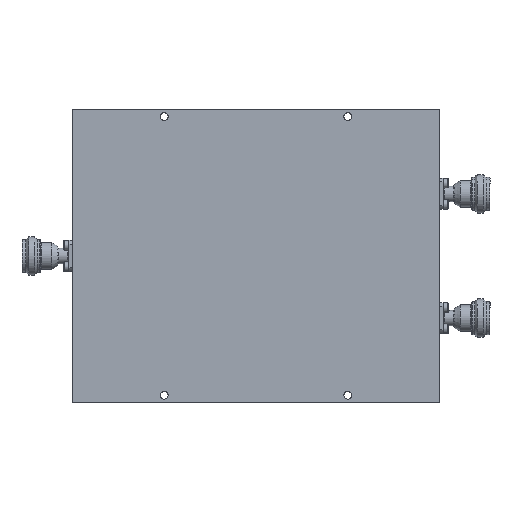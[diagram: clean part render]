
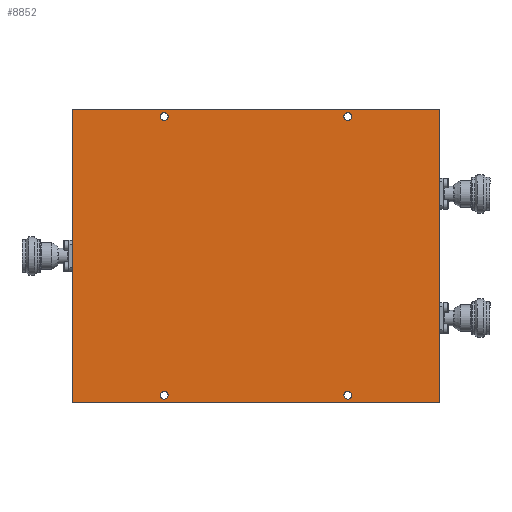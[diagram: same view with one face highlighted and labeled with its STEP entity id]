
A CAD part, top view. The second image highlights one B-rep face of the part: STEP entity #8852.
In plain terms, the highlighted planar face has unit normal (0, 0, 1).
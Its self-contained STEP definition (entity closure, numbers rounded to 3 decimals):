
#469=LINE('',#11884,#733);
#477=LINE('',#11909,#741);
#485=LINE('',#11954,#749);
#486=LINE('',#11955,#750);
#733=VECTOR('',#10080,1000.);
#741=VECTOR('',#10098,1000.);
#749=VECTOR('',#10140,1000.);
#750=VECTOR('',#10141,1000.);
#1033=ORIENTED_EDGE('',*,*,#2613,.T.);
#1034=ORIENTED_EDGE('',*,*,#2633,.T.);
#1035=ORIENTED_EDGE('',*,*,#2601,.T.);
#1036=ORIENTED_EDGE('',*,*,#2634,.T.);
#1037=ORIENTED_EDGE('',*,*,#2631,.F.);
#1038=ORIENTED_EDGE('',*,*,#2629,.F.);
#1039=ORIENTED_EDGE('',*,*,#2627,.F.);
#1040=ORIENTED_EDGE('',*,*,#2625,.F.);
#2601=EDGE_CURVE('',#3401,#3402,#469,.T.);
#2613=EDGE_CURVE('',#3413,#3414,#477,.T.);
#2625=EDGE_CURVE('',#3425,#3425,#4000,.T.);
#2627=EDGE_CURVE('',#3427,#3427,#4002,.T.);
#2629=EDGE_CURVE('',#3429,#3429,#4004,.T.);
#2631=EDGE_CURVE('',#3431,#3431,#4006,.T.);
#2633=EDGE_CURVE('',#3414,#3401,#485,.T.);
#2634=EDGE_CURVE('',#3402,#3413,#486,.T.);
#3401=VERTEX_POINT('',#11885);
#3402=VERTEX_POINT('',#11886);
#3413=VERTEX_POINT('',#11910);
#3414=VERTEX_POINT('',#11911);
#3425=VERTEX_POINT('',#11935);
#3427=VERTEX_POINT('',#11940);
#3429=VERTEX_POINT('',#11945);
#3431=VERTEX_POINT('',#11950);
#4000=CIRCLE('',#9311,1.6);
#4002=CIRCLE('',#9314,1.6);
#4004=CIRCLE('',#9317,1.6);
#4006=CIRCLE('',#9320,1.6);
#4339=EDGE_LOOP('',(#1033,#1034,#1035,#1036));
#4340=EDGE_LOOP('',(#1037));
#4341=EDGE_LOOP('',(#1038));
#4342=EDGE_LOOP('',(#1039));
#4343=EDGE_LOOP('',(#1040));
#4979=FACE_BOUND('',#4339,.T.);
#4980=FACE_BOUND('',#4340,.T.);
#4981=FACE_BOUND('',#4341,.T.);
#4982=FACE_BOUND('',#4342,.T.);
#4983=FACE_BOUND('',#4343,.T.);
#5623=PLANE('',#9322);
#8852=ADVANCED_FACE('',(#4979,#4980,#4981,#4982,#4983),#5623,.T.);
#9311=AXIS2_PLACEMENT_3D('',#11934,#10116,#10117);
#9314=AXIS2_PLACEMENT_3D('',#11939,#10122,#10123);
#9317=AXIS2_PLACEMENT_3D('',#11944,#10128,#10129);
#9320=AXIS2_PLACEMENT_3D('',#11949,#10134,#10135);
#9322=AXIS2_PLACEMENT_3D('',#11953,#10138,#10139);
#10080=DIRECTION('',(0.,1.,0.));
#10098=DIRECTION('',(0.,-1.,0.));
#10116=DIRECTION('',(0.,0.,1.));
#10117=DIRECTION('',(1.,0.,0.));
#10122=DIRECTION('',(0.,0.,1.));
#10123=DIRECTION('',(1.,0.,0.));
#10128=DIRECTION('',(0.,0.,1.));
#10129=DIRECTION('',(1.,0.,0.));
#10134=DIRECTION('',(0.,0.,1.));
#10135=DIRECTION('',(1.,0.,0.));
#10138=DIRECTION('',(0.,0.,1.));
#10139=DIRECTION('',(1.,0.,0.));
#10140=DIRECTION('',(1.,0.,0.));
#10141=DIRECTION('',(-1.,0.,0.));
#11884=CARTESIAN_POINT('',(75.,-60.,0.));
#11885=CARTESIAN_POINT('',(75.,-60.,0.));
#11886=CARTESIAN_POINT('',(75.,60.,0.));
#11909=CARTESIAN_POINT('',(-75.,60.,0.));
#11910=CARTESIAN_POINT('',(-75.,60.,0.));
#11911=CARTESIAN_POINT('',(-75.,-60.,0.));
#11934=CARTESIAN_POINT('',(37.5,-57.,0.));
#11935=CARTESIAN_POINT('',(39.1,-57.,0.));
#11939=CARTESIAN_POINT('',(37.5,57.,0.));
#11940=CARTESIAN_POINT('',(39.1,57.,0.));
#11944=CARTESIAN_POINT('',(-37.5,-57.,0.));
#11945=CARTESIAN_POINT('',(-35.9,-57.,0.));
#11949=CARTESIAN_POINT('',(-37.5,57.,0.));
#11950=CARTESIAN_POINT('',(-35.9,57.,0.));
#11953=CARTESIAN_POINT('',(0.,0.,0.));
#11954=CARTESIAN_POINT('',(-75.,-60.,0.));
#11955=CARTESIAN_POINT('',(75.,60.,0.));
